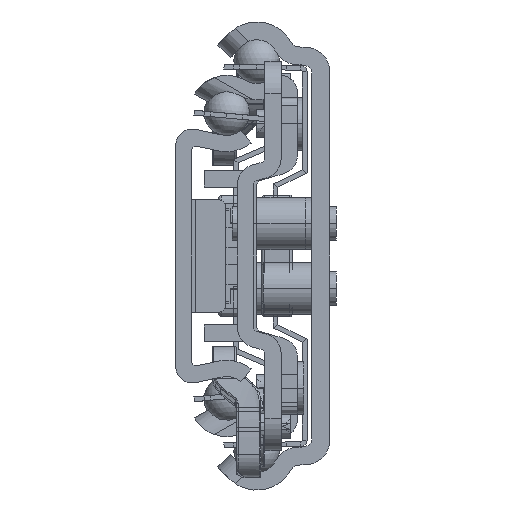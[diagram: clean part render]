
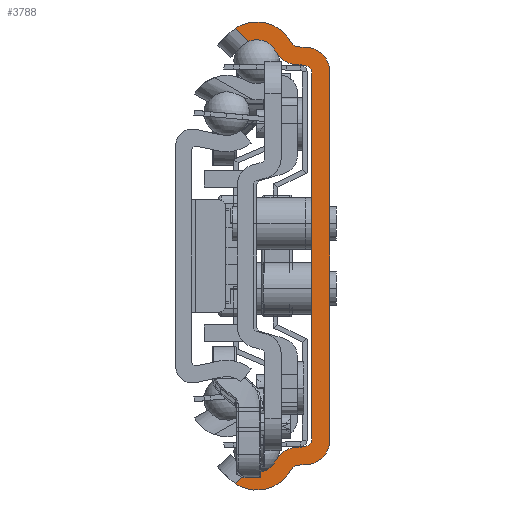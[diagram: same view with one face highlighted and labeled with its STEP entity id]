
A CAD part, left-side view. The second image highlights one B-rep face of the part: STEP entity #3788.
In plain terms, the highlighted planar face has unit normal (-1, 0, 0).
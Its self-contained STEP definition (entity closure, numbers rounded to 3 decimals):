
#1=DIRECTION('',(0.,0.717,-0.697));
#2=VECTOR('',#1,2.305);
#3=CARTESIAN_POINT('',(-350.,9.972,-26.461));
#4=LINE('',#3,#2);
#5=CARTESIAN_POINT('',(-350.,9.,-24.05));
#6=DIRECTION('',(-1.,0.,0.));
#7=DIRECTION('',(0.,0.374,-0.927));
#8=AXIS2_PLACEMENT_3D('',#5,#6,#7);
#10=CARTESIAN_POINT('',(-350.,4.005,-26.582));
#11=DIRECTION('',(-1.,0.,0.));
#12=DIRECTION('',(0.,0.07,0.998));
#13=AXIS2_PLACEMENT_3D('',#10,#11,#12);
#15=DIRECTION('',(0.,-0.998,0.07));
#16=VECTOR('',#15,1.087);
#17=CARTESIAN_POINT('',(-350.,4.214,-23.589));
#18=LINE('',#17,#16);
#19=DIRECTION('',(0.,0.,1.));
#20=VECTOR('',#19,45.032);
#21=CARTESIAN_POINT('',(-350.,2.2,-22.516));
#22=LINE('',#21,#20);
#23=DIRECTION('',(0.,0.998,0.07));
#24=VECTOR('',#23,1.087);
#25=CARTESIAN_POINT('',(-350.,3.13,23.514));
#26=LINE('',#25,#24);
#27=CARTESIAN_POINT('',(-350.,4.005,26.582));
#28=DIRECTION('',(-1.,0.,0.));
#29=DIRECTION('',(0.,0.892,-0.452));
#30=AXIS2_PLACEMENT_3D('',#27,#28,#29);
#32=CARTESIAN_POINT('',(-350.,9.,24.05));
#33=DIRECTION('',(-1.,0.,0.));
#34=DIRECTION('',(0.,-0.892,0.452));
#35=AXIS2_PLACEMENT_3D('',#32,#33,#34);
#37=DIRECTION('',(0.,-0.717,-0.697));
#38=VECTOR('',#37,2.305);
#39=CARTESIAN_POINT('',(-350.,11.624,28.069));
#40=LINE('',#39,#38);
#41=CARTESIAN_POINT('',(-350.,9.,24.05));
#42=DIRECTION('',(1.,0.,0.));
#43=DIRECTION('',(0.,0.547,0.837));
#44=AXIS2_PLACEMENT_3D('',#41,#42,#43);
#46=DIRECTION('',(0.,-0.998,-0.07));
#47=VECTOR('',#46,1.161);
#48=CARTESIAN_POINT('',(-350.,3.949,25.776));
#49=LINE('',#48,#47);
#50=CARTESIAN_POINT('',(-350.,3.,22.702));
#51=DIRECTION('',(-1.,0.,0.));
#52=DIRECTION('',(0.,-1.,0.));
#53=AXIS2_PLACEMENT_3D('',#50,#51,#52);
#55=DIRECTION('',(0.,0.,-1.));
#56=VECTOR('',#55,45.405);
#57=CARTESIAN_POINT('',(-350.,0.,22.702));
#58=LINE('',#57,#56);
#59=CARTESIAN_POINT('',(-350.,3.,-22.702));
#60=DIRECTION('',(-1.,0.,0.));
#61=DIRECTION('',(0.,-0.07,-0.998));
#62=AXIS2_PLACEMENT_3D('',#59,#60,#61);
#64=DIRECTION('',(0.,0.998,-0.07));
#65=VECTOR('',#64,1.161);
#66=CARTESIAN_POINT('',(-350.,2.791,-25.695));
#67=LINE('',#66,#65);
#68=CARTESIAN_POINT('',(-350.,9.,-24.05));
#69=DIRECTION('',(1.,0.,0.));
#70=DIRECTION('',(0.,-0.883,-0.47));
#71=AXIS2_PLACEMENT_3D('',#68,#69,#70);
#79=CARTESIAN_POINT('',(-350.,11.624,-28.069));
#103=CARTESIAN_POINT('',(-350.,9.972,-26.461));
#195=CARTESIAN_POINT('',(-350.,11.624,28.069));
#201=CARTESIAN_POINT('',(-350.,3.879,26.774));
#202=DIRECTION('',(1.,0.,0.));
#203=DIRECTION('',(0.,0.07,-0.998));
#204=AXIS2_PLACEMENT_3D('',#201,#202,#203);
#903=CARTESIAN_POINT('',(-350.,3.879,-26.774));
#904=DIRECTION('',(1.,0.,0.));
#905=DIRECTION('',(0.,0.883,0.47));
#906=AXIS2_PLACEMENT_3D('',#903,#904,#905);
#1674=CARTESIAN_POINT('',(-350.,3.2,-22.516));
#1675=DIRECTION('',(1.,0.,0.));
#1676=DIRECTION('',(0.,-1.,0.));
#1677=AXIS2_PLACEMENT_3D('',#1674,#1675,#1676);
#1692=CARTESIAN_POINT('',(-350.,3.2,22.516));
#1693=DIRECTION('',(1.,0.,0.));
#1694=DIRECTION('',(0.,-0.07,0.998));
#1695=AXIS2_PLACEMENT_3D('',#1692,#1693,#1694);
#1716=CARTESIAN_POINT('',(-350.,9.972,26.461));
#2957=CARTESIAN_POINT('',(-350.,2.2,-22.516));
#2959=VERTEX_POINT('',#2957);
#2961=CARTESIAN_POINT('',(-350.,3.13,-23.514));
#2963=VERTEX_POINT('',#2961);
#2965=CARTESIAN_POINT('',(-350.,3.13,23.514));
#2967=VERTEX_POINT('',#2965);
#2969=CARTESIAN_POINT('',(-350.,2.2,22.516));
#2971=VERTEX_POINT('',#2969);
#2973=CARTESIAN_POINT('',(-350.,3.949,25.776));
#2975=VERTEX_POINT('',#2973);
#2977=CARTESIAN_POINT('',(-350.,4.762,26.304));
#2979=VERTEX_POINT('',#2977);
#2981=CARTESIAN_POINT('',(-350.,4.762,-26.304));
#2983=VERTEX_POINT('',#2981);
#2985=CARTESIAN_POINT('',(-350.,3.949,-25.776));
#2987=VERTEX_POINT('',#2985);
#2989=CARTESIAN_POINT('',(-350.,4.214,-23.589));
#2990=CARTESIAN_POINT('',(-350.,6.681,-25.226));
#2991=VERTEX_POINT('',#2989);
#2992=VERTEX_POINT('',#2990);
#2997=CARTESIAN_POINT('',(-350.,6.681,25.226));
#2998=CARTESIAN_POINT('',(-350.,4.214,23.589));
#2999=VERTEX_POINT('',#2997);
#3000=VERTEX_POINT('',#2998);
#3005=CARTESIAN_POINT('',(-350.,0.,22.702));
#3006=CARTESIAN_POINT('',(-350.,2.791,25.695));
#3007=VERTEX_POINT('',#3005);
#3008=VERTEX_POINT('',#3006);
#3013=CARTESIAN_POINT('',(-350.,2.791,-25.695));
#3014=CARTESIAN_POINT('',(-350.,0.,-22.702));
#3015=VERTEX_POINT('',#3013);
#3016=VERTEX_POINT('',#3014);
#3363=VERTEX_POINT('',#79);
#3371=VERTEX_POINT('',#103);
#3372=VERTEX_POINT('',#1716);
#3380=VERTEX_POINT('',#195);
#3741=CARTESIAN_POINT('',(-350.,0.,0.));
#3742=DIRECTION('',(1.,0.,0.));
#3743=DIRECTION('',(0.,-1.,0.));
#3744=AXIS2_PLACEMENT_3D('',#3741,#3742,#3743);
#3745=PLANE('',#3744);
#3747=ORIENTED_EDGE('',*,*,#3746,.F.);
#3749=ORIENTED_EDGE('',*,*,#3748,.T.);
#3751=ORIENTED_EDGE('',*,*,#3750,.F.);
#3753=ORIENTED_EDGE('',*,*,#3752,.T.);
#3755=ORIENTED_EDGE('',*,*,#3754,.F.);
#3757=ORIENTED_EDGE('',*,*,#3756,.T.);
#3759=ORIENTED_EDGE('',*,*,#3758,.F.);
#3761=ORIENTED_EDGE('',*,*,#3760,.T.);
#3763=ORIENTED_EDGE('',*,*,#3762,.F.);
#3765=ORIENTED_EDGE('',*,*,#3764,.T.);
#3767=ORIENTED_EDGE('',*,*,#3766,.F.);
#3769=ORIENTED_EDGE('',*,*,#3768,.T.);
#3771=ORIENTED_EDGE('',*,*,#3770,.F.);
#3773=ORIENTED_EDGE('',*,*,#3772,.T.);
#3775=ORIENTED_EDGE('',*,*,#3774,.F.);
#3777=ORIENTED_EDGE('',*,*,#3776,.T.);
#3779=ORIENTED_EDGE('',*,*,#3778,.F.);
#3781=ORIENTED_EDGE('',*,*,#3780,.T.);
#3783=ORIENTED_EDGE('',*,*,#3782,.F.);
#3785=ORIENTED_EDGE('',*,*,#3784,.T.);
#3786=EDGE_LOOP('',(#3747,#3749,#3751,#3753,#3755,#3757,#3759,#3761,#3763,#3765,
#3767,#3769,#3771,#3773,#3775,#3777,#3779,#3781,#3783,#3785));
#3787=FACE_OUTER_BOUND('',#3786,.F.);
#9=CIRCLE('',#8,2.6);
#14=CIRCLE('',#13,3.);
#31=CIRCLE('',#30,3.);
#36=CIRCLE('',#35,2.6);
#45=CIRCLE('',#44,4.8);
#54=CIRCLE('',#53,3.);
#63=CIRCLE('',#62,3.);
#72=CIRCLE('',#71,4.8);
#205=CIRCLE('',#204,1.);
#907=CIRCLE('',#906,1.);
#1678=CIRCLE('',#1677,1.);
#1696=CIRCLE('',#1695,1.);
#3746=EDGE_CURVE('',#3371,#3363,#4,.T.);
#3748=EDGE_CURVE('',#3371,#2992,#9,.T.);
#3750=EDGE_CURVE('',#2991,#2992,#14,.T.);
#3752=EDGE_CURVE('',#2991,#2963,#18,.T.);
#3754=EDGE_CURVE('',#2959,#2963,#1678,.T.);
#3756=EDGE_CURVE('',#2959,#2971,#22,.T.);
#3758=EDGE_CURVE('',#2967,#2971,#1696,.T.);
#3760=EDGE_CURVE('',#2967,#3000,#26,.T.);
#3762=EDGE_CURVE('',#2999,#3000,#31,.T.);
#3764=EDGE_CURVE('',#2999,#3372,#36,.T.);
#3766=EDGE_CURVE('',#3380,#3372,#40,.T.);
#3768=EDGE_CURVE('',#3380,#2979,#45,.T.);
#3770=EDGE_CURVE('',#2975,#2979,#205,.T.);
#3772=EDGE_CURVE('',#2975,#3008,#49,.T.);
#3774=EDGE_CURVE('',#3007,#3008,#54,.T.);
#3776=EDGE_CURVE('',#3007,#3016,#58,.T.);
#3778=EDGE_CURVE('',#3015,#3016,#63,.T.);
#3780=EDGE_CURVE('',#3015,#2987,#67,.T.);
#3782=EDGE_CURVE('',#2983,#2987,#907,.T.);
#3784=EDGE_CURVE('',#2983,#3363,#72,.T.);
#3788=ADVANCED_FACE('',(#3787),#3745,.F.);
